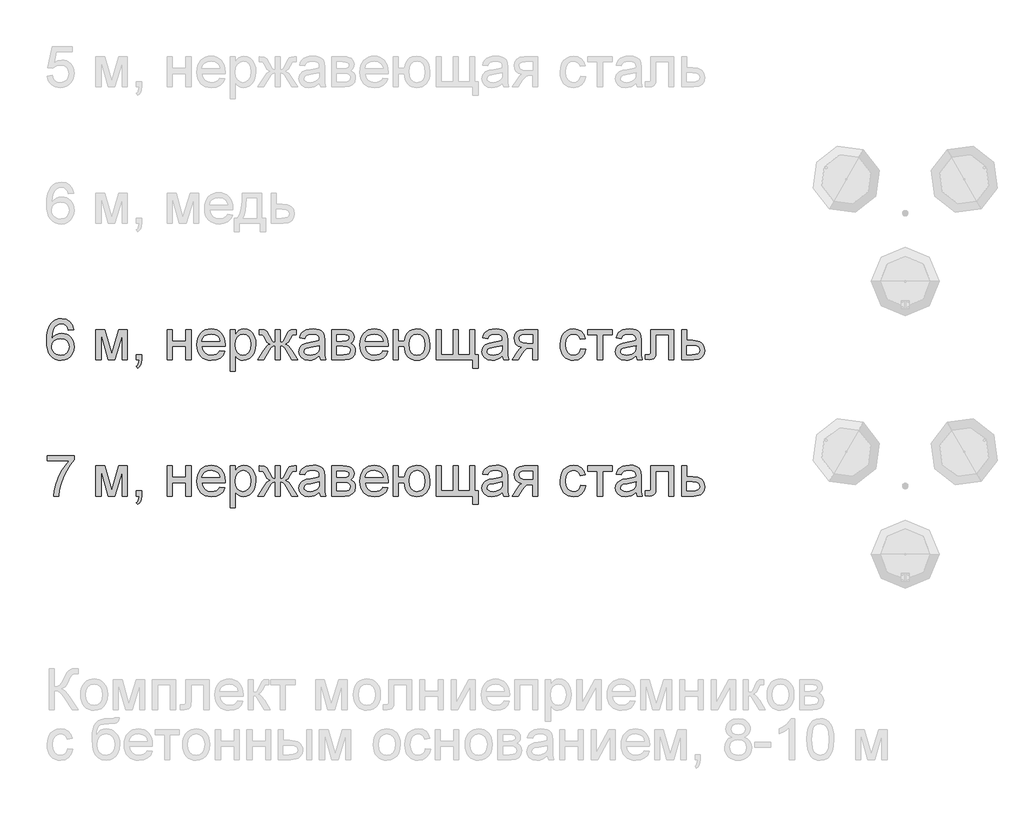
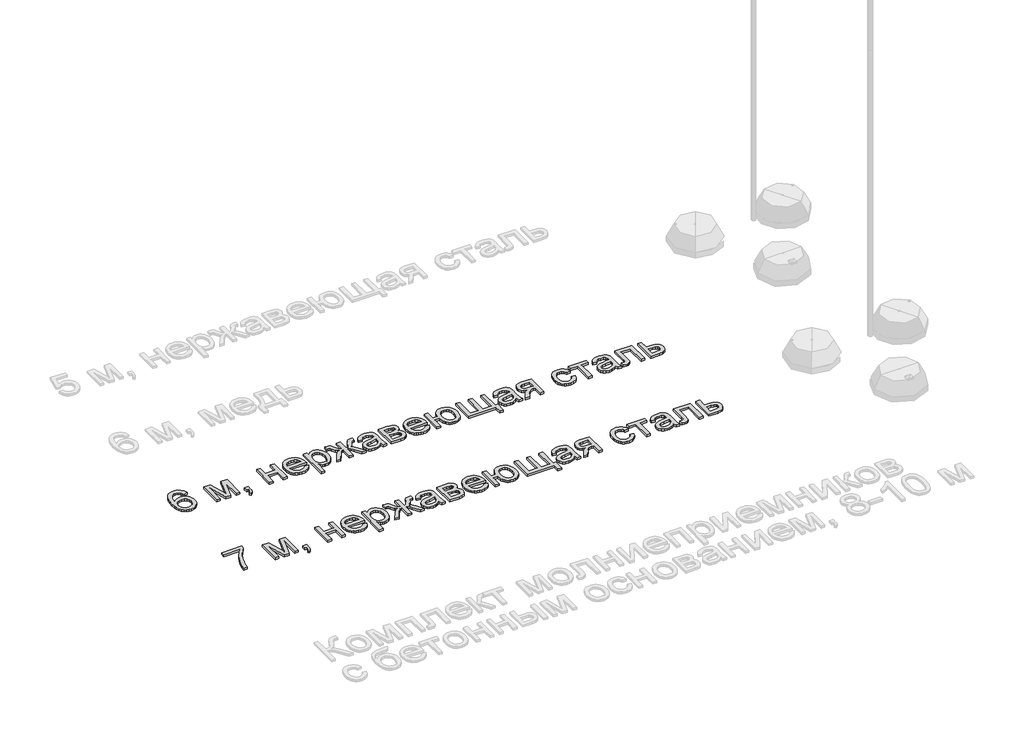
# One storey, part 42 of 124: 2 proxies.
"""IFC4 building model written with IfcOpenShell, lengths in millimetres."""

from ifc_helpers import new_model, si_unit, origin, origin_with_axes, place, context, project, spatial, polyline, outline, extrude, element, save

model = new_model("IFC4")

# Units and contexts
model_context = context("Model", 3, world=origin())
ifc_project = project(units=[si_unit("LENGTHUNIT", "METRE", prefix="MILLI")], contexts=[model_context])

# Site, building, storey
site = spatial("IfcSite", under=ifc_project)
building = spatial("IfcBuilding", under=site)
storey = spatial("IfcBuildingStorey", under=building, Name="Этаж 01", Elevation=0.0)

# Proxies
placement = place(None, origin())
element("IfcBuildingElementProxy", 1, Name="300", ObjectType="300", at=placement, inside=storey, context=model_context, shape_type="SweptSolid", body=[
    extrude(outline(polyline([(10578.7598701, -64286.1427805), (10541.0887538, -64290.85167), (10535.0187009, -64272.1816588), (10526.8149324, -64259.4345476), (10509.7268138, -64247.6807179), (10489.0702397, -64243.7627746), (10471.5590568, -64246.043643), (10455.0779434, -64252.8862481), (10440.9236836, -64267.2980253), (10429.3629919, -64287.1360619), (10421.5546966, -64315.196261), (10418.6576258, -64354.274526), (10433.7683788, -64336.6437814), (10451.87737, -64324.218567), (10471.972924, -64316.85173), (10493.0433653, -64314.3961177), (10511.1431594, -64316.0745793), (10527.845002, -64321.1099641), (10543.148893, -64329.5022721), (10557.0548324, -64341.2515033), (10568.6109256, -64355.658682), (10576.8652779, -64372.0248322), (10581.8178892, -64390.3499541), (10583.4687597, -64410.6340476), (10580.3601568, -64437.6089949), (10571.0343482, -64462.6157736), (10556.2638861, -64483.8241706), (10536.8213227, -64499.4039731), (10513.5895747, -64508.978102), (10487.4515589, -64512.1694783), (10464.9946624, -64510.0541568), (10444.7128682, -64503.7081924), (10426.6061762, -64493.1315851), (10410.6745866, -64478.3243348), (10397.6860529, -64458.6610421), (10388.4085288, -64433.5163077), (10382.8420144, -64402.8901316), (10380.9865095, -64366.7825138), (10383.0466487, -64326.3016988), (10389.2270662, -64291.7529809), (10399.5277621, -64263.1363602), (10413.9487363, -64240.4518367), (10429.5791226, -64225.4192586), (10447.7019094, -64214.6817029), (10468.3170967, -64208.2391695), (10491.4246845, -64206.0916583), (10524.4788818, -64211.4075532), (10550.9479913, -64227.3552376), (10569.4892439, -64252.683913), (10578.7598701, -64286.1427805)]), holes=[polyline([(10418.6576258, -64410.0454364), (10420.8373267, -64426.738082), (10427.3764291, -64442.6765694), (10437.5299722, -64456.3801737), (10450.5529948, -64466.3681699), (10466.2707531, -64472.465814), (10484.508503, -64474.498362), (10509.3681288, -64470.2861132), (10528.9118598, -64457.6493666), (10541.5761975, -64437.7837389), (10545.7976434, -64411.8848464), (10541.6313798, -64387.0252206), (10529.132589, -64368.0701008), (10509.2577642, -64356.0679507), (10482.9633986, -64352.067234), (10458.140561, -64356.0679507), (10437.3828194, -64368.0701008), (10423.3389242, -64386.5653681), (10418.6576258, -64410.0454364)])]), origin_with_axes(), (0.0, 0.0, 1.0), 20.0),
    extrude(outline(polyline([(10743.571004, -64286.1427805), (10808.3918115, -64286.1427805), (10858.3501865, -64463.3147493), (10912.2081106, -64286.1427805), (10974.3065914, -64286.1427805), (10974.3065914, -64507.4605888), (10936.6354751, -64507.4605888), (10936.6354751, -64329.2585503), (10882.4832454, -64507.4605888), (10833.0399052, -64507.4605888), (10781.2421203, -64320.723688), (10781.2421203, -64507.4605888), (10743.571004, -64507.4605888), (10743.571004, -64286.1427805)])), origin_with_axes(), (0.0, 0.0, 1.0), 20.0),
    extrude(outline(polyline([(11040.2310449, -64507.4605888), (11040.2310449, -64469.7894725), (11077.9021612, -64469.7894725), (11077.9021612, -64507.4605888), (11076.209904, -64529.0092766), (11071.1331325, -64545.9778337), (11062.377541, -64558.9916592), (11049.648824, -64568.6761528), (11040.2310449, -64554.5494842), (11048.3980252, -64547.7252731), (11054.0634079, -64538.2891), (11058.9930267, -64507.4605888), (11040.2310449, -64507.4605888)])), origin_with_axes(), (0.0, 0.0, 1.0), 20.0),
    extrude(outline(polyline([(11266.2577427, -64286.1427805), (11303.928859, -64286.1427805), (11303.928859, -64370.9027922), (11402.8155393, -64370.9027922), (11402.8155393, -64286.1427805), (11440.4866556, -64286.1427805), (11440.4866556, -64507.4605888), (11402.8155393, -64507.4605888), (11402.8155393, -64408.5739085), (11303.928859, -64408.5739085), (11303.928859, -64507.4605888), (11266.2577427, -64507.4605888), (11266.2577427, -64286.1427805)])), origin_with_axes(), (0.0, 0.0, 1.0), 20.0),
    extrude(outline(polyline([(11651.9452265, -64441.5361352), (11688.8805788, -64446.2450248), (11675.5724476, -64474.0752977), (11654.3364594, -64494.8790245), (11625.6508609, -64507.8468649), (11589.9938985, -64512.1694783), (11566.6195962, -64510.3047764), (11545.7928768, -64504.7106709), (11527.5137401, -64495.3871615), (11511.7821863, -64482.3342485), (11499.1316442, -64465.9152152), (11490.0955427, -64446.4933451), (11484.6738818, -64424.0686383), (11482.8666615, -64398.6410946), (11484.6922759, -64372.3513275), (11490.1691191, -64349.1793603), (11499.2971911, -64329.1251931), (11512.0764919, -64312.1888257), (11527.766659, -64298.7335418), (11545.6273299, -64289.1226246), (11565.6585045, -64283.3560744), (11587.8601829, -64281.4338909), (11609.3467907, -64283.3514758), (11628.7778578, -64289.1042305), (11646.1533843, -64298.692155), (11661.4733702, -64312.1152493), (11673.9790587, -64329.0148285), (11682.9116934, -64349.0322075), (11688.2712742, -64372.1673865), (11690.0578012, -64398.4203654), (11689.837072, -64408.5739085), (11520.5377778, -64408.5739085), (11527.0584862, -64436.7720634), (11542.2060273, -64457.5022138), (11564.0674149, -64470.249325), (11590.7296625, -64474.498362), (11610.7792312, -64472.5301933), (11627.6650148, -64466.6256873), (11641.3870132, -64456.4169619), (11651.9452265, -64441.5361352)]), holes=[polyline([(11520.5377778, -64370.9027922), (11652.3866849, -64370.9027922), (11647.2915192, -64351.0003762), (11637.3035231, -64336.763343), (11615.340968, -64323.5195912), (11587.7130301, -64319.1050072), (11562.3199754, -64322.6274773), (11541.3231105, -64333.1948877), (11526.7273924, -64349.666804), (11520.5377778, -64370.9027922)])]), origin_with_axes(), (0.0, 0.0, 1.0), 20.0),
    extrude(outline(polyline([(11727.7289175, -64592.2206005), (11727.7289175, -64286.1427805), (11765.4000338, -64286.1427805), (11765.4000338, -64323.0781328), (11777.6872924, -64304.858777), (11791.446079, -64291.8449514), (11807.485734, -64284.036656), (11826.6155978, -64281.4338909), (11852.091426, -64285.0759227), (11874.3666808, -64296.0020179), (11892.5032631, -64313.5499891), (11905.563074, -64337.0576486), (11913.4541427, -64364.8143451), (11916.084499, -64395.1094274), (11913.1138519, -64427.3266932), (11904.2019106, -64456.1410504), (11889.6337836, -64480.0901683), (11869.6945794, -64497.7117159), (11846.4720285, -64508.5550377), (11822.053861, -64512.1694783), (11804.7358161, -64509.7506542), (11789.2755753, -64502.4941818), (11776.0410205, -64491.5404954), (11765.4000338, -64478.0300292), (11765.4000338, -64592.2206005), (11727.7289175, -64592.2206005)]), holes=[polyline([(11765.4000338, -64398.5675182), (11769.4743269, -64432.3390854), (11781.6972062, -64455.9571094), (11799.732621, -64469.8630489), (11821.2445207, -64474.498362), (11843.1059082, -64469.697502), (11861.6011755, -64455.2949219), (11874.2103309, -64430.8123751), (11878.4133827, -64395.771615), (11874.3114985, -64362.1839889), (11862.0058457, -64338.234871), (11843.9980221, -64323.8874732), (11822.789625, -64319.1050072), (11801.4984546, -64324.1909758), (11782.8008522, -64339.4488816), (11769.7502384, -64364.4004779), (11765.4000338, -64398.5675182)])]), origin_with_axes(), (0.0, 0.0, 1.0), 20.0),
    extrude(outline(polyline([(12095.0223015, -64286.1427805), (12095.0223015, -64380.3205712), (12108.3120385, -64378.3799937), (12116.9848566, -64372.5582611), (12137.7701893, -64332.2751827), (12150.7380296, -64307.1672365), (12162.5654358, -64293.6475732), (12176.9312277, -64288.0189786), (12197.8085309, -64286.1427805), (12212.7445399, -64286.1427805), (12212.7445399, -64324.034626), (12202.3702677, -64323.8138968), (12182.9460983, -64327.7134459), (12169.4816173, -64352.1408104), (12153.8466325, -64378.9226197), (12131.5161954, -64392.5342535), (12143.9092201, -64397.8363527), (12156.145895, -64407.194351), (12180.1501952, -64438.0780445), (12222.162319, -64507.4605888), (12178.9729728, -64507.4605888), (12137.6230365, -64439.0345377), (12126.3198622, -64421.0726993), (12116.5433982, -64410.5972594), (12106.6565696, -64405.5480791), (12095.0223015, -64403.8650189), (12095.0223015, -64507.4605888), (12057.3511852, -64507.4605888), (12057.3511852, -64403.8650189), (12045.8088876, -64405.5112909), (12035.9036648, -64410.4501066), (12026.0536244, -64420.8519701), (12014.6768737, -64438.8873849), (11973.3269375, -64507.4605888), (11930.2111676, -64507.4605888), (11972.0761387, -64438.0780445), (11996.2643799, -64407.194351), (12008.5654341, -64397.8363527), (12021.004444, -64392.5342535), (12006.620258, -64385.3237664), (11997.3128435, -64377.5246681), (11977.0057574, -64338.8970586), (11967.0729435, -64326.1683415), (11950.8125594, -64323.5931676), (11939.6289467, -64323.8138968), (11939.6289467, -64286.1427805), (11945.2943294, -64286.1427805), (11978.3301326, -64288.4972252), (11995.4734336, -64298.5036155), (12014.6768737, -64332.2751827), (12035.2414773, -64372.3007437), (12043.9142953, -64378.3156144), (12057.3511852, -64380.3205712), (12057.3511852, -64286.1427805), (12095.0223015, -64286.1427805)])), origin_with_axes(), (0.0, 0.0, 1.0), 20.0),
    extrude(outline(polyline([(12382.2645633, -64479.2072515), (12364.2659367, -64494.6399012), (12345.7338812, -64504.738262), (12326.2453325, -64510.3116742), (12305.3772263, -64512.1694783), (12273.8957246, -64507.6997121), (12250.6731736, -64494.2904133), (12236.353367, -64473.9281449), (12231.5800981, -64448.5994695), (12233.3827199, -64432.9828788), (12238.7905852, -64418.8010279), (12247.1323094, -64406.6609221), (12257.7365079, -64397.1695666), (12284.113647, -64384.8087316), (12316.7079918, -64379.1433489), (12355.2252367, -64373.1836605), (12382.0438341, -64366.1939026), (12382.2645633, -64357.8061931), (12379.6709952, -64340.993986), (12371.890291, -64329.9943143), (12354.4894727, -64321.827334), (12330.2460492, -64319.1050072), (12307.8052475, -64320.9168261), (12292.1334745, -64326.3522825), (12281.4465025, -64336.4046581), (12273.9601039, -64352.067234), (12236.2889876, -64347.3583445), (12242.8280901, -64326.7569527), (12252.58616, -64310.570145), (12266.4737053, -64298.1909158), (12285.401234, -64289.01226), (12308.5502085, -64283.3284832), (12335.1020915, -64281.4338909), (12360.5687226, -64283.107754), (12380.7562471, -64288.1293432), (12395.9773647, -64295.6801212), (12406.544775, -64304.9415504), (12413.552927, -64316.3918775), (12418.0962696, -64330.5093491), (12419.9356796, -64363.4715759), (12419.9356796, -64410.339742), (12421.848666, -64475.785949), (12429.3534587, -64507.4605888), (12391.6823424, -64507.4605888), (12382.2645633, -64479.2072515)]), holes=[polyline([(12382.2645633, -64403.8650189), (12321.4904577, -64415.4165136), (12289.0800539, -64421.5233547), (12274.4015623, -64431.4561686), (12269.2512144, -64445.9507192), (12272.0563146, -64457.1527259), (12280.4716152, -64466.3313817), (12294.3131753, -64472.4566169), (12313.3970538, -64474.498362), (12333.6305635, -64472.2450848), (12351.5096285, -64465.4852531), (12366.0041791, -64455.5248481), (12376.0841458, -64443.6698508), (12380.553912, -64431.4561686), (12382.0438341, -64414.5335968), (12382.2645633, -64403.8650189)])]), origin_with_axes(), (0.0, 0.0, 1.0), 20.0),
    extrude(outline(polyline([(12471.7334645, -64286.1427805), (12554.7276426, -64286.1427805), (12581.4082843, -64287.4027763), (12600.2346454, -64291.1827638), (12614.0854026, -64298.3196745), (12625.8392323, -64309.65044), (12633.8682569, -64324.411705), (12636.5445984, -64341.8401145), (12634.9259176, -64355.8840097), (12630.0698753, -64367.9965244), (12621.9580773, -64378.2328409), (12610.5721295, -64386.6481416), (12624.5148571, -64394.474831), (12635.8824108, -64407.0655923), (12643.4423858, -64423.427144), (12645.9623774, -64442.5662048), (12639.5796248, -64471.2793945), (12624.4044925, -64491.4945102), (12600.3817982, -64503.4690691), (12567.4563597, -64507.4605888), (12471.7334645, -64507.4605888), (12471.7334645, -64286.1427805)]), holes=[polyline([(12509.4045808, -64370.9027922), (12546.6342387, -64370.9027922), (12577.3523853, -64368.9898058), (12592.2883943, -64361.3378603), (12597.2272101, -64355.01029), (12598.8734821, -64347.5054973), (12595.9856084, -64336.2667023), (12587.3219874, -64329.0378211), (12571.6686085, -64325.1198779), (12547.8114611, -64323.8138968), (12509.4045808, -64323.8138968), (12509.4045808, -64370.9027922)]), polyline([(12509.4045808, -64469.7894725), (12555.6105594, -64469.7894725), (12580.792082, -64468.0880182), (12596.5926137, -64462.9836556), (12605.0722937, -64453.7038322), (12608.2912611, -64439.4759961), (12606.6817774, -64430.0490199), (12601.8533262, -64421.3394137), (12594.440504, -64414.5243997), (12585.0779072, -64410.7812004), (12551.9317395, -64408.5739085), (12509.4045808, -64408.5739085), (12509.4045808, -64469.7894725)])]), origin_with_axes(), (0.0, 0.0, 1.0), 20.0),
    extrude(outline(polyline([(12848.0031692, -64441.5361352), (12884.9385215, -64446.2450248), (12871.6303903, -64474.0752977), (12850.3944022, -64494.8790245), (12821.7088036, -64507.8468649), (12786.0518412, -64512.1694783), (12762.6775389, -64510.3047764), (12741.8508195, -64504.7106709), (12723.5716829, -64495.3871615), (12707.840129, -64482.3342485), (12695.1895869, -64465.9152152), (12686.1534854, -64446.4933451), (12680.7318245, -64424.0686383), (12678.9246042, -64398.6410946), (12680.7502186, -64372.3513275), (12686.2270618, -64349.1793603), (12695.3551338, -64329.1251931), (12708.1344346, -64312.1888257), (12723.8246017, -64298.7335418), (12741.6852726, -64289.1226246), (12761.7164472, -64283.3560744), (12783.9181256, -64281.4338909), (12805.4047334, -64283.3514758), (12824.8358006, -64289.1042305), (12842.211327, -64298.692155), (12857.5313129, -64312.1152493), (12870.0370014, -64329.0148285), (12878.9696361, -64349.0322075), (12884.329217, -64372.1673865), (12886.1157439, -64398.4203654), (12885.8950147, -64408.5739085), (12716.5957205, -64408.5739085), (12723.1164289, -64436.7720634), (12738.26397, -64457.5022138), (12760.1253576, -64470.249325), (12786.7876052, -64474.498362), (12806.8371739, -64472.5301933), (12823.7229575, -64466.6256873), (12837.4449559, -64456.4169619), (12848.0031692, -64441.5361352)]), holes=[polyline([(12716.5957205, -64370.9027922), (12848.4446276, -64370.9027922), (12843.349462, -64351.0003762), (12833.3614658, -64336.763343), (12811.3989107, -64323.5195912), (12783.7709728, -64319.1050072), (12758.3779181, -64322.6274773), (12737.3810532, -64333.1948877), (12722.7853351, -64349.666804), (12716.5957205, -64370.9027922)])]), origin_with_axes(), (0.0, 0.0, 1.0), 20.0),
    extrude(outline(polyline([(12923.7868602, -64286.1427805), (12961.4579765, -64286.1427805), (12961.4579765, -64370.9027922), (13003.8379824, -64370.9027922), (13013.6144464, -64332.4959119), (13022.1378124, -64317.1552327), (13033.084601, -64304.3897274), (13046.1467111, -64294.346549), (13061.0160415, -64287.1728501), (13096.1763631, -64281.4338909), (13125.7264844, -64284.8092082), (13148.3052419, -64294.9351602), (13165.7244543, -64310.9840122), (13179.7959406, -64332.1280299), (13189.0941581, -64359.9399087), (13192.1935639, -64395.9923442), (13190.5909779, -64422.8477299), (13185.7832201, -64446.2450248), (13177.7702904, -64466.1842289), (13166.5521888, -64482.6653423), (13152.5887678, -64495.5734018), (13136.33988, -64504.7934443), (13117.8055252, -64510.3254698), (13096.9857035, -64512.1694783), (13077.5822275, -64510.4404329), (13060.2067011, -64505.2532968), (13044.8591241, -64496.6080699), (13031.5394966, -64484.5047523), (13020.5789124, -64469.3848023), (13012.3084653, -64451.6896783), (13003.8379824, -64408.5739085), (12961.4579765, -64408.5739085), (12961.4579765, -64507.4605888), (12923.7868602, -64507.4605888), (12923.7868602, -64286.1427805)]), holes=[polyline([(13098.6043843, -64319.1050072), (13074.5908871, -64323.9794437), (13056.5554723, -64338.602753), (13045.2706921, -64362.018442), (13041.5090987, -64393.2700175), (13045.2982832, -64429.6811379), (13056.6658369, -64454.8902517), (13074.3793549, -64469.5963344), (13097.2064327, -64474.498362), (13120.0978899, -64469.9642164), (13138.4460044, -64456.3617796), (13150.5033368, -64432.6609821), (13154.5224476, -64397.8317542), (13151.0459627, -64363.3888024), (13140.6165082, -64338.786694), (13123.1605075, -64324.0254289), (13098.6043843, -64319.1050072)])]), origin_with_axes(), (0.0, 0.0, 1.0), 20.0),
    extrude(outline(polyline([(13239.2824593, -64286.1427805), (13276.9535756, -64286.1427805), (13276.9535756, -64469.7894725), (13361.7135873, -64469.7894725), (13361.7135873, -64286.1427805), (13399.3847036, -64286.1427805), (13399.3847036, -64469.7894725), (13484.1447153, -64469.7894725), (13484.1447153, -64286.1427805), (13521.8158316, -64286.1427805), (13521.8158316, -64469.7894725), (13545.3602793, -64469.7894725), (13545.3602793, -64568.6761528), (13507.6891629, -64568.6761528), (13507.6891629, -64507.4605888), (13239.2824593, -64507.4605888), (13239.2824593, -64286.1427805)])), origin_with_axes(), (0.0, 0.0, 1.0), 20.0),
    extrude(outline(polyline([(13724.2980817, -64479.2072515), (13706.2994551, -64494.6399012), (13687.7673996, -64504.738262), (13668.2788509, -64510.3116742), (13647.4107447, -64512.1694783), (13615.929243, -64507.6997121), (13592.706692, -64494.2904133), (13578.3868854, -64473.9281449), (13573.6136165, -64448.5994695), (13575.4162383, -64432.9828788), (13580.8241036, -64418.8010279), (13589.1658278, -64406.6609221), (13599.7700263, -64397.1695666), (13626.1471654, -64384.8087316), (13658.7415102, -64379.1433489), (13697.2587551, -64373.1836605), (13724.0773525, -64366.1939026), (13724.2980817, -64357.8061931), (13721.7045136, -64340.993986), (13713.9238094, -64329.9943143), (13696.5229911, -64321.827334), (13672.2795676, -64319.1050072), (13649.8387659, -64320.9168261), (13634.1669929, -64326.3522825), (13623.4800209, -64336.4046581), (13615.9936223, -64352.067234), (13578.322506, -64347.3583445), (13584.8616085, -64326.7569527), (13594.6196784, -64310.570145), (13608.5072237, -64298.1909158), (13627.4347524, -64289.01226), (13650.5837269, -64283.3284832), (13677.1356099, -64281.4338909), (13702.602241, -64283.107754), (13722.7897655, -64288.1293432), (13738.0108831, -64295.6801212), (13748.5782934, -64304.9415504), (13755.5864454, -64316.3918775), (13760.129788, -64330.5093491), (13761.969198, -64363.4715759), (13761.969198, -64410.339742), (13763.8821844, -64475.785949), (13771.3869771, -64507.4605888), (13733.7158608, -64507.4605888), (13724.2980817, -64479.2072515)]), holes=[polyline([(13724.2980817, -64403.8650189), (13663.5239761, -64415.4165136), (13631.1135723, -64421.5233547), (13616.4350807, -64431.4561686), (13611.2847328, -64445.9507192), (13614.089833, -64457.1527259), (13622.5051336, -64466.3313817), (13636.3466937, -64472.4566169), (13655.4305722, -64474.498362), (13675.6640819, -64472.2450848), (13693.5431469, -64465.4852531), (13708.0376975, -64455.5248481), (13718.1176642, -64443.6698508), (13722.5874304, -64431.4561686), (13724.0773525, -64414.5335968), (13724.2980817, -64403.8650189)])]), origin_with_axes(), (0.0, 0.0, 1.0), 20.0),
    extrude(outline(polyline([(13983.2870063, -64286.1427805), (13983.2870063, -64507.4605888), (13945.61589, -64507.4605888), (13945.61589, -64422.7005771), (13925.0880747, -64422.7005771), (13897.129043, -64427.483043), (13885.9638245, -64437.9124976), (13870.8622686, -64459.6359294), (13840.8430978, -64507.4605888), (13797.2858696, -64507.4605888), (13835.1041387, -64446.9807888), (13851.8059812, -64425.275751), (13867.1834486, -64415.6372428), (13841.431709, -64407.746174), (13823.3319148, -64392.7549827), (13812.6265487, -64372.8157785), (13809.0580934, -64350.0806712), (13813.9325298, -64324.2921434), (13828.5558391, -64303.8746926), (13852.4129865, -64290.5757585), (13884.9889372, -64286.1427805), (13983.2870063, -64286.1427805)]), holes=[polyline([(13945.61589, -64323.8138968), (13895.9518207, -64323.8138968), (13870.3012485, -64325.9935976), (13855.7423186, -64332.5327001), (13848.9824869, -64341.9964644), (13846.7292097, -64352.9501508), (13850.0493447, -64367.3067457), (13860.0097497, -64377.2671507), (13878.4130465, -64383.0888833), (13907.0618569, -64385.0294608), (13945.61589, -64385.0294608), (13945.61589, -64323.8138968)])]), origin_with_axes(), (0.0, 0.0, 1.0), 20.0),
    extrude(outline(polyline([(14298.7826054, -64427.4094666), (14336.4537217, -64432.1183562), (14325.9506907, -64465.6232089), (14306.2138217, -64490.9426872), (14279.1009186, -64506.8627805), (14246.4697857, -64512.1694783), (14225.3418628, -64510.318572), (14206.3982393, -64504.7658532), (14189.6389152, -64495.5113217), (14175.0638904, -64482.5549777), (14163.2663747, -64466.1405429), (14154.8395777, -64446.5117392), (14149.7834995, -64423.6685666), (14148.0981402, -64397.611025), (14150.9768168, -64364.0877782), (14159.6128466, -64335.0342976), (14174.1441854, -64311.5726234), (14194.7087889, -64294.8247956), (14219.3108974, -64284.7816171), (14245.9547509, -64281.4338909), (14277.7857405, -64286.0324159), (14303.2339775, -64299.8279907), (14321.4901215, -64322.0848514), (14331.7448321, -64352.067234), (14294.0737158, -64356.7761235), (14287.2403078, -64340.3409954), (14276.5993211, -64328.5595745), (14262.7393669, -64321.4686491), (14246.2490565, -64319.1050072), (14221.9044654, -64323.7587145), (14202.5814636, -64337.7198362), (14189.9723083, -64361.7425305), (14185.7692565, -64396.5809554), (14189.8803378, -64431.8884299), (14202.2135816, -64455.9938976), (14221.1870955, -64469.8722459), (14245.2189869, -64474.498362), (14264.7259297, -64471.6104883), (14280.7195994, -64462.9468674), (14292.3538675, -64448.2867698), (14298.7826054, -64427.4094666)])), origin_with_axes(), (0.0, 0.0, 1.0), 20.0),
    extrude(outline(polyline([(14350.5803903, -64286.1427805), (14529.5181928, -64286.1427805), (14529.5181928, -64323.8138968), (14458.8848497, -64323.8138968), (14458.8848497, -64507.4605888), (14421.2137334, -64507.4605888), (14421.2137334, -64323.8138968), (14350.5803903, -64323.8138968), (14350.5803903, -64286.1427805)])), origin_with_axes(), (0.0, 0.0, 1.0), 20.0),
    extrude(outline(polyline([(14703.7471057, -64479.2072515), (14685.7484791, -64494.6399012), (14667.2164235, -64504.738262), (14647.7278749, -64510.3116742), (14626.8597687, -64512.1694783), (14595.3782669, -64507.6997121), (14572.155716, -64494.2904133), (14557.8359093, -64473.9281449), (14553.0626404, -64448.5994695), (14554.8652622, -64432.9828788), (14560.2731275, -64418.8010279), (14568.6148518, -64406.6609221), (14579.2190503, -64397.1695666), (14605.5961894, -64384.8087316), (14638.1905341, -64379.1433489), (14676.707779, -64373.1836605), (14703.5263765, -64366.1939026), (14703.7471057, -64357.8061931), (14701.1535376, -64340.993986), (14693.3728334, -64329.9943143), (14675.972015, -64321.827334), (14651.7285915, -64319.1050072), (14629.2877898, -64320.9168261), (14613.6160168, -64326.3522825), (14602.9290449, -64336.4046581), (14595.4426463, -64352.067234), (14557.77153, -64347.3583445), (14564.3106324, -64326.7569527), (14574.0687024, -64310.570145), (14587.9562477, -64298.1909158), (14606.8837763, -64289.01226), (14630.0327509, -64283.3284832), (14656.5846339, -64281.4338909), (14682.051265, -64283.107754), (14702.2387895, -64288.1293432), (14717.459907, -64295.6801212), (14728.0273173, -64304.9415504), (14735.0354694, -64316.3918775), (14739.578812, -64330.5093491), (14741.418222, -64363.4715759), (14741.418222, -64410.339742), (14743.3312083, -64475.785949), (14750.836001, -64507.4605888), (14713.1648847, -64507.4605888), (14703.7471057, -64479.2072515)]), holes=[polyline([(14703.7471057, -64403.8650189), (14642.9730001, -64415.4165136), (14610.5625963, -64421.5233547), (14595.8841047, -64431.4561686), (14590.7337567, -64445.9507192), (14593.538857, -64457.1527259), (14601.9541576, -64466.3313817), (14615.7957177, -64472.4566169), (14634.8795962, -64474.498362), (14655.1131059, -64472.2450848), (14672.9921709, -64465.4852531), (14687.4867215, -64455.5248481), (14697.5666881, -64443.6698508), (14702.0364544, -64431.4561686), (14703.5263765, -64414.5335968), (14703.7471057, -64403.8650189)])]), origin_with_axes(), (0.0, 0.0, 1.0), 20.0),
    extrude(outline(polyline([(14812.051565, -64286.1427805), (14981.5715884, -64286.1427805), (14981.5715884, -64507.2398596), (14943.9004721, -64507.2398596), (14943.9004721, -64323.8138968), (14849.7226814, -64323.8138968), (14849.7226814, -64429.3960294), (14847.1842956, -64478.1036056), (14842.4294208, -64489.1308684), (14833.241568, -64498.6682091), (14819.2988404, -64505.2624938), (14800.2793412, -64507.4605888), (14769.6715592, -64505.5476024), (14769.6715592, -64469.7894725), (14786.5205546, -64469.7894725), (14803.553491, -64467.4718159), (14810.3593079, -64460.114176), (14812.051565, -64427.2623138), (14812.051565, -64286.1427805)])), origin_with_axes(), (0.0, 0.0, 1.0), 20.0),
    extrude(outline(polyline([(15038.0782629, -64286.1427805), (15075.7493792, -64286.1427805), (15075.7493792, -64366.1939026), (15119.1594546, -64366.1939026), (15156.7937827, -64370.9119892), (15171.9413239, -64376.8095974), (15184.6424498, -64385.066249), (15194.6856282, -64395.3968353), (15201.8593271, -64407.5162477), (15207.5982863, -64437.1215513), (15202.7146528, -64464.0781045), (15188.0637523, -64486.8224088), (15176.8318552, -64495.8516126), (15162.6706976, -64502.3010438), (15125.5606013, -64507.4605888), (15038.0782629, -64507.4605888), (15038.0782629, -64286.1427805)]), holes=[polyline([(15075.7493792, -64469.7894725), (15110.9188979, -64469.7894725), (15138.2065449, -64467.8121067), (15156.3523243, -64461.8800096), (15166.5334585, -64451.7540577), (15169.92717, -64437.1951277), (15167.4163753, -64424.889475), (15159.8839915, -64414.018562), (15143.7431689, -64406.4034047), (15115.4070583, -64403.8650189), (15075.7493792, -64403.8650189), (15075.7493792, -64469.7894725)])]), origin_with_axes(), (0.0, 0.0, 1.0), 20.0),
])
element("IfcBuildingElementProxy", 2, Name="300", ObjectType="300", at=placement, inside=storey, context=model_context, shape_type="SweptSolid", body=[
    extrude(outline(polyline([(10385.6953991, -65248.4716642), (10385.6953991, -65210.8005479), (10583.4687597, -65210.8005479), (10583.4687597, -65241.2611771), (10555.2798018, -65276.9365335), (10527.3667554, -65322.3055806), (10502.7462529, -65373.2296458), (10484.4349266, -65425.5700566), (10475.4586059, -65464.731095), (10470.4554108, -65507.4605888), (10432.7842945, -65507.4605888), (10436.8585876, -65468.6306442), (10447.7570917, -65422.4798479), (10465.1855012, -65373.5607396), (10488.8495105, -65326.4258589), (10516.4774484, -65283.8159269), (10545.7976434, -65248.4716642), (10385.6953991, -65248.4716642)])), origin_with_axes(), (0.0, 0.0, 1.0), 20.0),
    extrude(outline(polyline([(10743.571004, -65286.1427805), (10808.3918115, -65286.1427805), (10858.3501865, -65463.3147493), (10912.2081106, -65286.1427805), (10974.3065914, -65286.1427805), (10974.3065914, -65507.4605888), (10936.6354751, -65507.4605888), (10936.6354751, -65329.2585503), (10882.4832454, -65507.4605888), (10833.0399052, -65507.4605888), (10781.2421203, -65320.723688), (10781.2421203, -65507.4605888), (10743.571004, -65507.4605888), (10743.571004, -65286.1427805)])), origin_with_axes(), (0.0, 0.0, 1.0), 20.0),
    extrude(outline(polyline([(11040.2310449, -65507.4605888), (11040.2310449, -65469.7894725), (11077.9021612, -65469.7894725), (11077.9021612, -65507.4605888), (11076.209904, -65529.0092766), (11071.1331325, -65545.9778337), (11062.377541, -65558.9916592), (11049.648824, -65568.6761528), (11040.2310449, -65554.5494842), (11048.3980252, -65547.7252731), (11054.0634079, -65538.2891), (11058.9930267, -65507.4605888), (11040.2310449, -65507.4605888)])), origin_with_axes(), (0.0, 0.0, 1.0), 20.0),
    extrude(outline(polyline([(11266.2577427, -65286.1427805), (11303.928859, -65286.1427805), (11303.928859, -65370.9027922), (11402.8155393, -65370.9027922), (11402.8155393, -65286.1427805), (11440.4866556, -65286.1427805), (11440.4866556, -65507.4605888), (11402.8155393, -65507.4605888), (11402.8155393, -65408.5739085), (11303.928859, -65408.5739085), (11303.928859, -65507.4605888), (11266.2577427, -65507.4605888), (11266.2577427, -65286.1427805)])), origin_with_axes(), (0.0, 0.0, 1.0), 20.0),
    extrude(outline(polyline([(11651.9452265, -65441.5361352), (11688.8805788, -65446.2450248), (11675.5724476, -65474.0752977), (11654.3364594, -65494.8790245), (11625.6508609, -65507.8468649), (11589.9938985, -65512.1694783), (11566.6195962, -65510.3047764), (11545.7928768, -65504.7106709), (11527.5137401, -65495.3871615), (11511.7821863, -65482.3342485), (11499.1316442, -65465.9152152), (11490.0955427, -65446.4933451), (11484.6738818, -65424.0686383), (11482.8666615, -65398.6410946), (11484.6922759, -65372.3513275), (11490.1691191, -65349.1793603), (11499.2971911, -65329.1251931), (11512.0764919, -65312.1888257), (11527.766659, -65298.7335418), (11545.6273299, -65289.1226246), (11565.6585045, -65283.3560744), (11587.8601829, -65281.4338909), (11609.3467907, -65283.3514758), (11628.7778578, -65289.1042305), (11646.1533843, -65298.692155), (11661.4733702, -65312.1152493), (11673.9790587, -65329.0148285), (11682.9116934, -65349.0322075), (11688.2712742, -65372.1673865), (11690.0578012, -65398.4203654), (11689.837072, -65408.5739085), (11520.5377778, -65408.5739085), (11527.0584862, -65436.7720634), (11542.2060273, -65457.5022138), (11564.0674149, -65470.249325), (11590.7296625, -65474.498362), (11610.7792312, -65472.5301933), (11627.6650148, -65466.6256873), (11641.3870132, -65456.4169619), (11651.9452265, -65441.5361352)]), holes=[polyline([(11520.5377778, -65370.9027922), (11652.3866849, -65370.9027922), (11647.2915192, -65351.0003762), (11637.3035231, -65336.763343), (11615.340968, -65323.5195912), (11587.7130301, -65319.1050072), (11562.3199754, -65322.6274773), (11541.3231105, -65333.1948877), (11526.7273924, -65349.666804), (11520.5377778, -65370.9027922)])]), origin_with_axes(), (0.0, 0.0, 1.0), 20.0),
    extrude(outline(polyline([(11727.7289175, -65592.2206005), (11727.7289175, -65286.1427805), (11765.4000338, -65286.1427805), (11765.4000338, -65323.0781328), (11777.6872924, -65304.858777), (11791.446079, -65291.8449514), (11807.485734, -65284.036656), (11826.6155978, -65281.4338909), (11852.091426, -65285.0759227), (11874.3666808, -65296.0020179), (11892.5032631, -65313.5499891), (11905.563074, -65337.0576486), (11913.4541427, -65364.8143451), (11916.084499, -65395.1094274), (11913.1138519, -65427.3266932), (11904.2019106, -65456.1410504), (11889.6337836, -65480.0901683), (11869.6945794, -65497.7117159), (11846.4720285, -65508.5550377), (11822.053861, -65512.1694783), (11804.7358161, -65509.7506542), (11789.2755753, -65502.4941818), (11776.0410205, -65491.5404954), (11765.4000338, -65478.0300292), (11765.4000338, -65592.2206005), (11727.7289175, -65592.2206005)]), holes=[polyline([(11765.4000338, -65398.5675182), (11769.4743269, -65432.3390854), (11781.6972062, -65455.9571094), (11799.732621, -65469.8630489), (11821.2445207, -65474.498362), (11843.1059082, -65469.697502), (11861.6011755, -65455.2949219), (11874.2103309, -65430.8123751), (11878.4133827, -65395.771615), (11874.3114985, -65362.1839889), (11862.0058457, -65338.234871), (11843.9980221, -65323.8874732), (11822.789625, -65319.1050072), (11801.4984546, -65324.1909758), (11782.8008522, -65339.4488816), (11769.7502384, -65364.4004779), (11765.4000338, -65398.5675182)])]), origin_with_axes(), (0.0, 0.0, 1.0), 20.0),
    extrude(outline(polyline([(12095.0223015, -65286.1427805), (12095.0223015, -65380.3205712), (12108.3120385, -65378.3799937), (12116.9848566, -65372.5582611), (12137.7701893, -65332.2751827), (12150.7380296, -65307.1672365), (12162.5654358, -65293.6475732), (12176.9312277, -65288.0189786), (12197.8085309, -65286.1427805), (12212.7445399, -65286.1427805), (12212.7445399, -65324.034626), (12202.3702677, -65323.8138968), (12182.9460983, -65327.7134459), (12169.4816173, -65352.1408104), (12153.8466325, -65378.9226197), (12131.5161954, -65392.5342535), (12143.9092201, -65397.8363527), (12156.145895, -65407.194351), (12180.1501952, -65438.0780445), (12222.162319, -65507.4605888), (12178.9729728, -65507.4605888), (12137.6230365, -65439.0345377), (12126.3198622, -65421.0726993), (12116.5433982, -65410.5972594), (12106.6565696, -65405.5480791), (12095.0223015, -65403.8650189), (12095.0223015, -65507.4605888), (12057.3511852, -65507.4605888), (12057.3511852, -65403.8650189), (12045.8088876, -65405.5112909), (12035.9036648, -65410.4501066), (12026.0536244, -65420.8519701), (12014.6768737, -65438.8873849), (11973.3269375, -65507.4605888), (11930.2111676, -65507.4605888), (11972.0761387, -65438.0780445), (11996.2643799, -65407.194351), (12008.5654341, -65397.8363527), (12021.004444, -65392.5342535), (12006.620258, -65385.3237664), (11997.3128435, -65377.5246681), (11977.0057574, -65338.8970586), (11967.0729435, -65326.1683415), (11950.8125594, -65323.5931676), (11939.6289467, -65323.8138968), (11939.6289467, -65286.1427805), (11945.2943294, -65286.1427805), (11978.3301326, -65288.4972252), (11995.4734336, -65298.5036155), (12014.6768737, -65332.2751827), (12035.2414773, -65372.3007437), (12043.9142953, -65378.3156144), (12057.3511852, -65380.3205712), (12057.3511852, -65286.1427805), (12095.0223015, -65286.1427805)])), origin_with_axes(), (0.0, 0.0, 1.0), 20.0),
    extrude(outline(polyline([(12382.2645633, -65479.2072515), (12364.2659367, -65494.6399012), (12345.7338812, -65504.738262), (12326.2453325, -65510.3116742), (12305.3772263, -65512.1694783), (12273.8957246, -65507.6997121), (12250.6731736, -65494.2904133), (12236.353367, -65473.9281449), (12231.5800981, -65448.5994695), (12233.3827199, -65432.9828788), (12238.7905852, -65418.8010279), (12247.1323094, -65406.6609221), (12257.7365079, -65397.1695666), (12284.113647, -65384.8087316), (12316.7079918, -65379.1433489), (12355.2252367, -65373.1836605), (12382.0438341, -65366.1939026), (12382.2645633, -65357.8061931), (12379.6709952, -65340.993986), (12371.890291, -65329.9943143), (12354.4894727, -65321.827334), (12330.2460492, -65319.1050072), (12307.8052475, -65320.9168261), (12292.1334745, -65326.3522825), (12281.4465025, -65336.4046581), (12273.9601039, -65352.067234), (12236.2889876, -65347.3583445), (12242.8280901, -65326.7569527), (12252.58616, -65310.570145), (12266.4737053, -65298.1909158), (12285.401234, -65289.01226), (12308.5502085, -65283.3284832), (12335.1020915, -65281.4338909), (12360.5687226, -65283.107754), (12380.7562471, -65288.1293432), (12395.9773647, -65295.6801212), (12406.544775, -65304.9415504), (12413.552927, -65316.3918775), (12418.0962696, -65330.5093491), (12419.9356796, -65363.4715759), (12419.9356796, -65410.339742), (12421.848666, -65475.785949), (12429.3534587, -65507.4605888), (12391.6823424, -65507.4605888), (12382.2645633, -65479.2072515)]), holes=[polyline([(12382.2645633, -65403.8650189), (12321.4904577, -65415.4165136), (12289.0800539, -65421.5233547), (12274.4015623, -65431.4561686), (12269.2512144, -65445.9507192), (12272.0563146, -65457.1527259), (12280.4716152, -65466.3313817), (12294.3131753, -65472.4566169), (12313.3970538, -65474.498362), (12333.6305635, -65472.2450848), (12351.5096285, -65465.4852531), (12366.0041791, -65455.5248481), (12376.0841458, -65443.6698508), (12380.553912, -65431.4561686), (12382.0438341, -65414.5335968), (12382.2645633, -65403.8650189)])]), origin_with_axes(), (0.0, 0.0, 1.0), 20.0),
    extrude(outline(polyline([(12471.7334645, -65286.1427805), (12554.7276426, -65286.1427805), (12581.4082843, -65287.4027763), (12600.2346454, -65291.1827638), (12614.0854026, -65298.3196745), (12625.8392323, -65309.65044), (12633.8682569, -65324.411705), (12636.5445984, -65341.8401145), (12634.9259176, -65355.8840097), (12630.0698753, -65367.9965244), (12621.9580773, -65378.2328409), (12610.5721295, -65386.6481416), (12624.5148571, -65394.474831), (12635.8824108, -65407.0655923), (12643.4423858, -65423.427144), (12645.9623774, -65442.5662048), (12639.5796248, -65471.2793945), (12624.4044925, -65491.4945102), (12600.3817982, -65503.4690691), (12567.4563597, -65507.4605888), (12471.7334645, -65507.4605888), (12471.7334645, -65286.1427805)]), holes=[polyline([(12509.4045808, -65370.9027922), (12546.6342387, -65370.9027922), (12577.3523853, -65368.9898058), (12592.2883943, -65361.3378603), (12597.2272101, -65355.01029), (12598.8734821, -65347.5054973), (12595.9856084, -65336.2667023), (12587.3219874, -65329.0378211), (12571.6686085, -65325.1198779), (12547.8114611, -65323.8138968), (12509.4045808, -65323.8138968), (12509.4045808, -65370.9027922)]), polyline([(12509.4045808, -65469.7894725), (12555.6105594, -65469.7894725), (12580.792082, -65468.0880182), (12596.5926137, -65462.9836556), (12605.0722937, -65453.7038322), (12608.2912611, -65439.4759961), (12606.6817774, -65430.0490199), (12601.8533262, -65421.3394137), (12594.440504, -65414.5243997), (12585.0779072, -65410.7812004), (12551.9317395, -65408.5739085), (12509.4045808, -65408.5739085), (12509.4045808, -65469.7894725)])]), origin_with_axes(), (0.0, 0.0, 1.0), 20.0),
    extrude(outline(polyline([(12848.0031692, -65441.5361352), (12884.9385215, -65446.2450248), (12871.6303903, -65474.0752977), (12850.3944022, -65494.8790245), (12821.7088036, -65507.8468649), (12786.0518412, -65512.1694783), (12762.6775389, -65510.3047764), (12741.8508195, -65504.7106709), (12723.5716829, -65495.3871615), (12707.840129, -65482.3342485), (12695.1895869, -65465.9152152), (12686.1534854, -65446.4933451), (12680.7318245, -65424.0686383), (12678.9246042, -65398.6410946), (12680.7502186, -65372.3513275), (12686.2270618, -65349.1793603), (12695.3551338, -65329.1251931), (12708.1344346, -65312.1888257), (12723.8246017, -65298.7335418), (12741.6852726, -65289.1226246), (12761.7164472, -65283.3560744), (12783.9181256, -65281.4338909), (12805.4047334, -65283.3514758), (12824.8358006, -65289.1042305), (12842.211327, -65298.692155), (12857.5313129, -65312.1152493), (12870.0370014, -65329.0148285), (12878.9696361, -65349.0322075), (12884.329217, -65372.1673865), (12886.1157439, -65398.4203654), (12885.8950147, -65408.5739085), (12716.5957205, -65408.5739085), (12723.1164289, -65436.7720634), (12738.26397, -65457.5022138), (12760.1253576, -65470.249325), (12786.7876052, -65474.498362), (12806.8371739, -65472.5301933), (12823.7229575, -65466.6256873), (12837.4449559, -65456.4169619), (12848.0031692, -65441.5361352)]), holes=[polyline([(12716.5957205, -65370.9027922), (12848.4446276, -65370.9027922), (12843.349462, -65351.0003762), (12833.3614658, -65336.763343), (12811.3989107, -65323.5195912), (12783.7709728, -65319.1050072), (12758.3779181, -65322.6274773), (12737.3810532, -65333.1948877), (12722.7853351, -65349.666804), (12716.5957205, -65370.9027922)])]), origin_with_axes(), (0.0, 0.0, 1.0), 20.0),
    extrude(outline(polyline([(12923.7868602, -65286.1427805), (12961.4579765, -65286.1427805), (12961.4579765, -65370.9027922), (13003.8379824, -65370.9027922), (13013.6144464, -65332.4959119), (13022.1378124, -65317.1552327), (13033.084601, -65304.3897274), (13046.1467111, -65294.346549), (13061.0160415, -65287.1728501), (13096.1763631, -65281.4338909), (13125.7264844, -65284.8092082), (13148.3052419, -65294.9351602), (13165.7244543, -65310.9840122), (13179.7959406, -65332.1280299), (13189.0941581, -65359.9399087), (13192.1935639, -65395.9923442), (13190.5909779, -65422.8477299), (13185.7832201, -65446.2450248), (13177.7702904, -65466.1842289), (13166.5521888, -65482.6653423), (13152.5887678, -65495.5734018), (13136.33988, -65504.7934443), (13117.8055252, -65510.3254698), (13096.9857035, -65512.1694783), (13077.5822275, -65510.4404329), (13060.2067011, -65505.2532968), (13044.8591241, -65496.6080699), (13031.5394966, -65484.5047523), (13020.5789124, -65469.3848023), (13012.3084653, -65451.6896783), (13003.8379824, -65408.5739085), (12961.4579765, -65408.5739085), (12961.4579765, -65507.4605888), (12923.7868602, -65507.4605888), (12923.7868602, -65286.1427805)]), holes=[polyline([(13098.6043843, -65319.1050072), (13074.5908871, -65323.9794437), (13056.5554723, -65338.602753), (13045.2706921, -65362.018442), (13041.5090987, -65393.2700175), (13045.2982832, -65429.6811379), (13056.6658369, -65454.8902517), (13074.3793549, -65469.5963344), (13097.2064327, -65474.498362), (13120.0978899, -65469.9642164), (13138.4460044, -65456.3617796), (13150.5033368, -65432.6609821), (13154.5224476, -65397.8317542), (13151.0459627, -65363.3888024), (13140.6165082, -65338.786694), (13123.1605075, -65324.0254289), (13098.6043843, -65319.1050072)])]), origin_with_axes(), (0.0, 0.0, 1.0), 20.0),
    extrude(outline(polyline([(13239.2824593, -65286.1427805), (13276.9535756, -65286.1427805), (13276.9535756, -65469.7894725), (13361.7135873, -65469.7894725), (13361.7135873, -65286.1427805), (13399.3847036, -65286.1427805), (13399.3847036, -65469.7894725), (13484.1447153, -65469.7894725), (13484.1447153, -65286.1427805), (13521.8158316, -65286.1427805), (13521.8158316, -65469.7894725), (13545.3602793, -65469.7894725), (13545.3602793, -65568.6761528), (13507.6891629, -65568.6761528), (13507.6891629, -65507.4605888), (13239.2824593, -65507.4605888), (13239.2824593, -65286.1427805)])), origin_with_axes(), (0.0, 0.0, 1.0), 20.0),
    extrude(outline(polyline([(13724.2980817, -65479.2072515), (13706.2994551, -65494.6399012), (13687.7673996, -65504.738262), (13668.2788509, -65510.3116742), (13647.4107447, -65512.1694783), (13615.929243, -65507.6997121), (13592.706692, -65494.2904133), (13578.3868854, -65473.9281449), (13573.6136165, -65448.5994695), (13575.4162383, -65432.9828788), (13580.8241036, -65418.8010279), (13589.1658278, -65406.6609221), (13599.7700263, -65397.1695666), (13626.1471654, -65384.8087316), (13658.7415102, -65379.1433489), (13697.2587551, -65373.1836605), (13724.0773525, -65366.1939026), (13724.2980817, -65357.8061931), (13721.7045136, -65340.993986), (13713.9238094, -65329.9943143), (13696.5229911, -65321.827334), (13672.2795676, -65319.1050072), (13649.8387659, -65320.9168261), (13634.1669929, -65326.3522825), (13623.4800209, -65336.4046581), (13615.9936223, -65352.067234), (13578.322506, -65347.3583445), (13584.8616085, -65326.7569527), (13594.6196784, -65310.570145), (13608.5072237, -65298.1909158), (13627.4347524, -65289.01226), (13650.5837269, -65283.3284832), (13677.1356099, -65281.4338909), (13702.602241, -65283.107754), (13722.7897655, -65288.1293432), (13738.0108831, -65295.6801212), (13748.5782934, -65304.9415504), (13755.5864454, -65316.3918775), (13760.129788, -65330.5093491), (13761.969198, -65363.4715759), (13761.969198, -65410.339742), (13763.8821844, -65475.785949), (13771.3869771, -65507.4605888), (13733.7158608, -65507.4605888), (13724.2980817, -65479.2072515)]), holes=[polyline([(13724.2980817, -65403.8650189), (13663.5239761, -65415.4165136), (13631.1135723, -65421.5233547), (13616.4350807, -65431.4561686), (13611.2847328, -65445.9507192), (13614.089833, -65457.1527259), (13622.5051336, -65466.3313817), (13636.3466937, -65472.4566169), (13655.4305722, -65474.498362), (13675.6640819, -65472.2450848), (13693.5431469, -65465.4852531), (13708.0376975, -65455.5248481), (13718.1176642, -65443.6698508), (13722.5874304, -65431.4561686), (13724.0773525, -65414.5335968), (13724.2980817, -65403.8650189)])]), origin_with_axes(), (0.0, 0.0, 1.0), 20.0),
    extrude(outline(polyline([(13983.2870063, -65286.1427805), (13983.2870063, -65507.4605888), (13945.61589, -65507.4605888), (13945.61589, -65422.7005771), (13925.0880747, -65422.7005771), (13897.129043, -65427.483043), (13885.9638245, -65437.9124976), (13870.8622686, -65459.6359294), (13840.8430978, -65507.4605888), (13797.2858696, -65507.4605888), (13835.1041387, -65446.9807888), (13851.8059812, -65425.275751), (13867.1834486, -65415.6372428), (13841.431709, -65407.746174), (13823.3319148, -65392.7549827), (13812.6265487, -65372.8157785), (13809.0580934, -65350.0806712), (13813.9325298, -65324.2921434), (13828.5558391, -65303.8746926), (13852.4129865, -65290.5757585), (13884.9889372, -65286.1427805), (13983.2870063, -65286.1427805)]), holes=[polyline([(13945.61589, -65323.8138968), (13895.9518207, -65323.8138968), (13870.3012485, -65325.9935976), (13855.7423186, -65332.5327001), (13848.9824869, -65341.9964644), (13846.7292097, -65352.9501508), (13850.0493447, -65367.3067457), (13860.0097497, -65377.2671507), (13878.4130465, -65383.0888833), (13907.0618569, -65385.0294608), (13945.61589, -65385.0294608), (13945.61589, -65323.8138968)])]), origin_with_axes(), (0.0, 0.0, 1.0), 20.0),
    extrude(outline(polyline([(14298.7826054, -65427.4094666), (14336.4537217, -65432.1183562), (14325.9506907, -65465.6232089), (14306.2138217, -65490.9426872), (14279.1009186, -65506.8627805), (14246.4697857, -65512.1694783), (14225.3418628, -65510.318572), (14206.3982393, -65504.7658532), (14189.6389152, -65495.5113217), (14175.0638904, -65482.5549777), (14163.2663747, -65466.1405429), (14154.8395777, -65446.5117392), (14149.7834995, -65423.6685666), (14148.0981402, -65397.611025), (14150.9768168, -65364.0877782), (14159.6128466, -65335.0342976), (14174.1441854, -65311.5726234), (14194.7087889, -65294.8247956), (14219.3108974, -65284.7816171), (14245.9547509, -65281.4338909), (14277.7857405, -65286.0324159), (14303.2339775, -65299.8279907), (14321.4901215, -65322.0848514), (14331.7448321, -65352.067234), (14294.0737158, -65356.7761235), (14287.2403078, -65340.3409954), (14276.5993211, -65328.5595745), (14262.7393669, -65321.4686491), (14246.2490565, -65319.1050072), (14221.9044654, -65323.7587145), (14202.5814636, -65337.7198362), (14189.9723083, -65361.7425305), (14185.7692565, -65396.5809554), (14189.8803378, -65431.8884299), (14202.2135816, -65455.9938976), (14221.1870955, -65469.8722459), (14245.2189869, -65474.498362), (14264.7259297, -65471.6104883), (14280.7195994, -65462.9468674), (14292.3538675, -65448.2867698), (14298.7826054, -65427.4094666)])), origin_with_axes(), (0.0, 0.0, 1.0), 20.0),
    extrude(outline(polyline([(14350.5803903, -65286.1427805), (14529.5181928, -65286.1427805), (14529.5181928, -65323.8138968), (14458.8848497, -65323.8138968), (14458.8848497, -65507.4605888), (14421.2137334, -65507.4605888), (14421.2137334, -65323.8138968), (14350.5803903, -65323.8138968), (14350.5803903, -65286.1427805)])), origin_with_axes(), (0.0, 0.0, 1.0), 20.0),
    extrude(outline(polyline([(14703.7471057, -65479.2072515), (14685.7484791, -65494.6399012), (14667.2164235, -65504.738262), (14647.7278749, -65510.3116742), (14626.8597687, -65512.1694783), (14595.3782669, -65507.6997121), (14572.155716, -65494.2904133), (14557.8359093, -65473.9281449), (14553.0626404, -65448.5994695), (14554.8652622, -65432.9828788), (14560.2731275, -65418.8010279), (14568.6148518, -65406.6609221), (14579.2190503, -65397.1695666), (14605.5961894, -65384.8087316), (14638.1905341, -65379.1433489), (14676.707779, -65373.1836605), (14703.5263765, -65366.1939026), (14703.7471057, -65357.8061931), (14701.1535376, -65340.993986), (14693.3728334, -65329.9943143), (14675.972015, -65321.827334), (14651.7285915, -65319.1050072), (14629.2877898, -65320.9168261), (14613.6160168, -65326.3522825), (14602.9290449, -65336.4046581), (14595.4426463, -65352.067234), (14557.77153, -65347.3583445), (14564.3106324, -65326.7569527), (14574.0687024, -65310.570145), (14587.9562477, -65298.1909158), (14606.8837763, -65289.01226), (14630.0327509, -65283.3284832), (14656.5846339, -65281.4338909), (14682.051265, -65283.107754), (14702.2387895, -65288.1293432), (14717.459907, -65295.6801212), (14728.0273173, -65304.9415504), (14735.0354694, -65316.3918775), (14739.578812, -65330.5093491), (14741.418222, -65363.4715759), (14741.418222, -65410.339742), (14743.3312083, -65475.785949), (14750.836001, -65507.4605888), (14713.1648847, -65507.4605888), (14703.7471057, -65479.2072515)]), holes=[polyline([(14703.7471057, -65403.8650189), (14642.9730001, -65415.4165136), (14610.5625963, -65421.5233547), (14595.8841047, -65431.4561686), (14590.7337567, -65445.9507192), (14593.538857, -65457.1527259), (14601.9541576, -65466.3313817), (14615.7957177, -65472.4566169), (14634.8795962, -65474.498362), (14655.1131059, -65472.2450848), (14672.9921709, -65465.4852531), (14687.4867215, -65455.5248481), (14697.5666881, -65443.6698508), (14702.0364544, -65431.4561686), (14703.5263765, -65414.5335968), (14703.7471057, -65403.8650189)])]), origin_with_axes(), (0.0, 0.0, 1.0), 20.0),
    extrude(outline(polyline([(14812.051565, -65286.1427805), (14981.5715884, -65286.1427805), (14981.5715884, -65507.2398596), (14943.9004721, -65507.2398596), (14943.9004721, -65323.8138968), (14849.7226814, -65323.8138968), (14849.7226814, -65429.3960294), (14847.1842956, -65478.1036056), (14842.4294208, -65489.1308684), (14833.241568, -65498.6682091), (14819.2988404, -65505.2624938), (14800.2793412, -65507.4605888), (14769.6715592, -65505.5476024), (14769.6715592, -65469.7894725), (14786.5205546, -65469.7894725), (14803.553491, -65467.4718159), (14810.3593079, -65460.114176), (14812.051565, -65427.2623138), (14812.051565, -65286.1427805)])), origin_with_axes(), (0.0, 0.0, 1.0), 20.0),
    extrude(outline(polyline([(15038.0782629, -65286.1427805), (15075.7493792, -65286.1427805), (15075.7493792, -65366.1939026), (15119.1594546, -65366.1939026), (15156.7937827, -65370.9119892), (15171.9413239, -65376.8095974), (15184.6424498, -65385.066249), (15194.6856282, -65395.3968353), (15201.8593271, -65407.5162477), (15207.5982863, -65437.1215513), (15202.7146528, -65464.0781045), (15188.0637523, -65486.8224088), (15176.8318552, -65495.8516126), (15162.6706976, -65502.3010438), (15125.5606013, -65507.4605888), (15038.0782629, -65507.4605888), (15038.0782629, -65286.1427805)]), holes=[polyline([(15075.7493792, -65469.7894725), (15110.9188979, -65469.7894725), (15138.2065449, -65467.8121067), (15156.3523243, -65461.8800096), (15166.5334585, -65451.7540577), (15169.92717, -65437.1951277), (15167.4163753, -65424.889475), (15159.8839915, -65414.018562), (15143.7431689, -65406.4034047), (15115.4070583, -65403.8650189), (15075.7493792, -65403.8650189), (15075.7493792, -65469.7894725)])]), origin_with_axes(), (0.0, 0.0, 1.0), 20.0),
])

save(model, "model.ifc")
